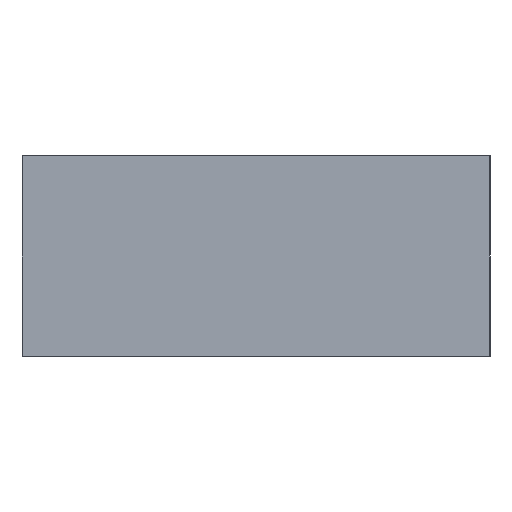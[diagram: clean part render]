
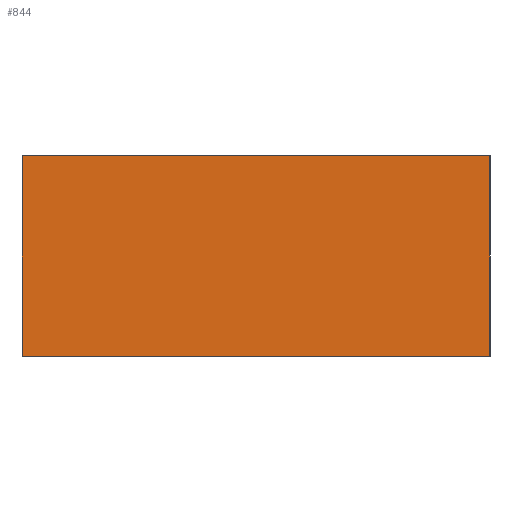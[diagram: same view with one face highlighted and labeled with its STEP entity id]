
A CAD part, top view. The second image highlights one B-rep face of the part: STEP entity #844.
In plain terms, the highlighted free-form (B-spline) face has degree [1, 1] with [2, 2] control points.
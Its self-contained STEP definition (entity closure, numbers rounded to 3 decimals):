
#844=ADVANCED_FACE('',(#1032),#5059,.T.);
#1032=FACE_OUTER_BOUND('',#1220,.T.);
#1220=EDGE_LOOP('',(#1525,#1526,#1527,#1528));
#1525=ORIENTED_EDGE('',*,*,#4369,.T.);
#1526=ORIENTED_EDGE('',*,*,#4370,.T.);
#1527=ORIENTED_EDGE('',*,*,#4371,.T.);
#1528=ORIENTED_EDGE('',*,*,#4372,.T.);
#2337=PCURVE('',#5059,#3149);
#2338=PCURVE('',#5059,#3150);
#2339=PCURVE('',#5059,#3151);
#2340=PCURVE('',#5059,#3152);
#3149=DEFINITIONAL_REPRESENTATION('',(#5209),#14070);
#3150=DEFINITIONAL_REPRESENTATION('',(#5211),#14070);
#3151=DEFINITIONAL_REPRESENTATION('',(#5213),#14070);
#3152=DEFINITIONAL_REPRESENTATION('',(#5215),#14070);
#3946=SURFACE_CURVE('',#5208,(#2337),.PCURVE_S1.);
#3947=SURFACE_CURVE('',#5210,(#2338),.PCURVE_S1.);
#3948=SURFACE_CURVE('',#5212,(#2339),.PCURVE_S1.);
#3949=SURFACE_CURVE('',#5214,(#2340),.PCURVE_S1.);
#4369=EDGE_CURVE('',#4782,#4783,#3946,.T.);
#4370=EDGE_CURVE('',#4783,#4784,#3947,.T.);
#4371=EDGE_CURVE('',#4784,#4785,#3948,.T.);
#4372=EDGE_CURVE('',#4785,#4782,#3949,.T.);
#4782=VERTEX_POINT('',#6551);
#4783=VERTEX_POINT('',#6552);
#4784=VERTEX_POINT('',#6553);
#4785=VERTEX_POINT('',#6554);
#5059=B_SPLINE_SURFACE_WITH_KNOTS('',1,1,((#6547,#6548),(#6549,#6550)),
 .UNSPECIFIED.,.F.,.F.,.F.,(2,2),(2,2),(0.,2100.),(0.,900.),
 .UNSPECIFIED.);
#5208=B_SPLINE_CURVE_WITH_KNOTS('',1,(#6555,#6556),.UNSPECIFIED.,.F.,.F.,
(2,2),(0.,2100.),.UNSPECIFIED.);
#5209=B_SPLINE_CURVE_WITH_KNOTS('',1,(#6557,#6558),.UNSPECIFIED.,.F.,.F.,
(2,2),(0.,2100.),.UNSPECIFIED.);
#5210=B_SPLINE_CURVE_WITH_KNOTS('',1,(#6559,#6560),.UNSPECIFIED.,.F.,.F.,
(2,2),(0.,900.),.UNSPECIFIED.);
#5211=B_SPLINE_CURVE_WITH_KNOTS('',1,(#6561,#6562),.UNSPECIFIED.,.F.,.F.,
(2,2),(0.,900.),.UNSPECIFIED.);
#5212=B_SPLINE_CURVE_WITH_KNOTS('',1,(#6563,#6564),.UNSPECIFIED.,.F.,.F.,
(2,2),(-2100.,0.),.UNSPECIFIED.);
#5213=B_SPLINE_CURVE_WITH_KNOTS('',1,(#6565,#6566),.UNSPECIFIED.,.F.,.F.,
(2,2),(-2100.,0.),.UNSPECIFIED.);
#5214=B_SPLINE_CURVE_WITH_KNOTS('',1,(#6567,#6568),.UNSPECIFIED.,.F.,.F.,
(2,2),(-900.,0.),.UNSPECIFIED.);
#5215=B_SPLINE_CURVE_WITH_KNOTS('',1,(#6569,#6570),.UNSPECIFIED.,.F.,.F.,
(2,2),(-900.,0.),.UNSPECIFIED.);
#6547=CARTESIAN_POINT('',(-10783.319,275.687,930.807));
#6548=CARTESIAN_POINT('',(-10783.319,1175.687,930.807));
#6549=CARTESIAN_POINT('',(-8683.319,275.687,930.807));
#6550=CARTESIAN_POINT('',(-8683.319,1175.687,930.807));
#6551=CARTESIAN_POINT('',(-10783.319,275.687,930.807));
#6552=CARTESIAN_POINT('',(-8683.319,275.687,930.807));
#6553=CARTESIAN_POINT('',(-8683.319,1175.687,930.807));
#6554=CARTESIAN_POINT('',(-10783.319,1175.687,930.807));
#6555=CARTESIAN_POINT('',(-10783.319,275.687,930.807));
#6556=CARTESIAN_POINT('',(-8683.319,275.687,930.807));
#6557=CARTESIAN_POINT('',(0.,0.));
#6558=CARTESIAN_POINT('',(2100.,0.));
#6559=CARTESIAN_POINT('',(-8683.319,275.687,930.807));
#6560=CARTESIAN_POINT('',(-8683.319,1175.687,930.807));
#6561=CARTESIAN_POINT('',(2100.,0.));
#6562=CARTESIAN_POINT('',(2100.,900.));
#6563=CARTESIAN_POINT('',(-8683.319,1175.687,930.807));
#6564=CARTESIAN_POINT('',(-10783.319,1175.687,930.807));
#6565=CARTESIAN_POINT('',(2100.,900.));
#6566=CARTESIAN_POINT('',(0.,900.));
#6567=CARTESIAN_POINT('',(-10783.319,1175.687,930.807));
#6568=CARTESIAN_POINT('',(-10783.319,275.687,930.807));
#6569=CARTESIAN_POINT('',(0.,900.));
#6570=CARTESIAN_POINT('',(0.,0.));
#14070=(
GEOMETRIC_REPRESENTATION_CONTEXT(2)
PARAMETRIC_REPRESENTATION_CONTEXT()
REPRESENTATION_CONTEXT('pspace','')
);
